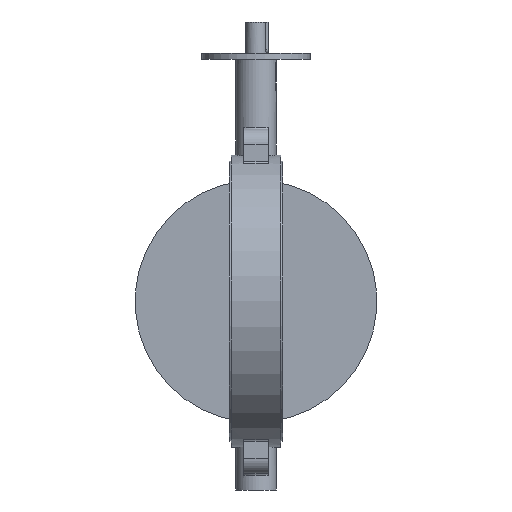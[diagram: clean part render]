
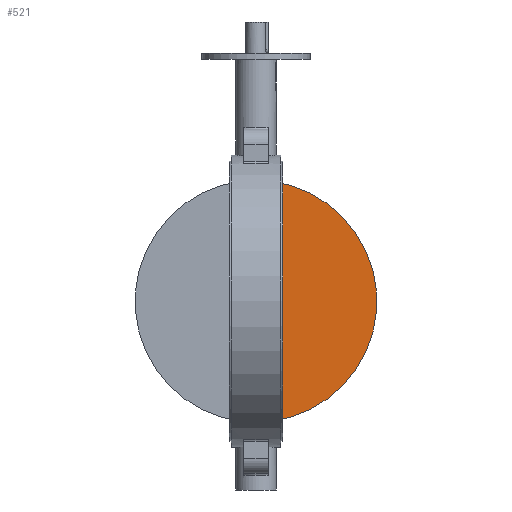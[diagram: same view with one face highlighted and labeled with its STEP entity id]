
A CAD part, front view. The second image highlights one B-rep face of the part: STEP entity #521.
In plain terms, the highlighted planar face has unit normal (0, -1, 0).
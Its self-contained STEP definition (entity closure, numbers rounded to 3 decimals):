
#521=ADVANCED_FACE('',(#1288),#1290,.T.);
#1288=FACE_BOUND('',#1289,.T.);
#1289=EDGE_LOOP('',(#1834,#1835));
#1290=PLANE('',#1291);
#1291=AXIS2_PLACEMENT_3D('',#1292,#1293,#1294);
#1292=CARTESIAN_POINT('',(0.,-2.5,0.));
#1293=DIRECTION('',(0.,-1.,0.));
#1294=DIRECTION('',(0.,0.,1.));
#1834=ORIENTED_EDGE('',*,*,#2084,.T.);
#1835=ORIENTED_EDGE('',*,*,#2119,.T.);
#2084=EDGE_CURVE('',#2372,#2369,#2373,.T.);
#2119=EDGE_CURVE('',#2369,#2372,#2422,.T.);
#2369=VERTEX_POINT('',#3863);
#2372=VERTEX_POINT('',#3893);
#2373=LINE('',#3894,#3895);
#2422=CIRCLE('',#4098,194.805);
#3863=CARTESIAN_POINT('',(22.361,-2.5,-193.517));
#3893=CARTESIAN_POINT('',(22.361,-2.5,193.517));
#3894=CARTESIAN_POINT('',(22.361,-2.5,193.517));
#3895=VECTOR('',#3896,1.);
#3896=DIRECTION('',(0.,0.,-1.));
#4098=AXIS2_PLACEMENT_3D('',#4099,#4100,#4101);
#4099=CARTESIAN_POINT('',(0.,-2.5,0.));
#4100=DIRECTION('',(0.,-1.,0.));
#4101=DIRECTION('',(0.115,0.,-0.993));
